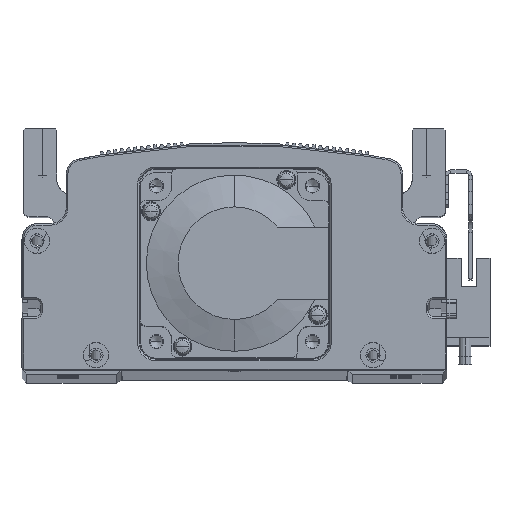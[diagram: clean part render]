
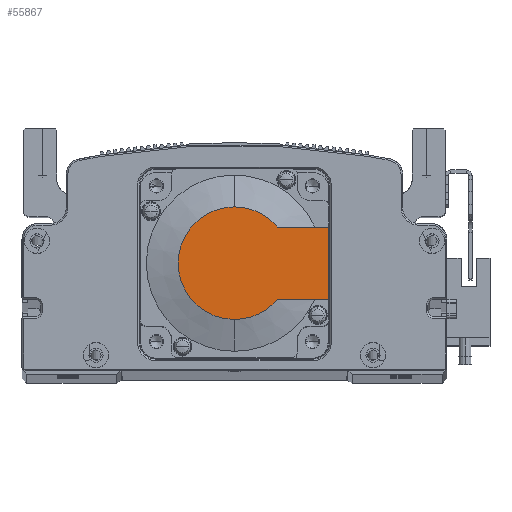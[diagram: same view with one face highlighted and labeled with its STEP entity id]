
A CAD part, top view. The second image highlights one B-rep face of the part: STEP entity #55867.
In plain terms, the highlighted planar face has unit normal (0, 0, 1) as drawn and (-1, 0, 0) by its records, which use the part's own axes.
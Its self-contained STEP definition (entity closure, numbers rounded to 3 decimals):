
#815 = FACE_OUTER_BOUND ( 'NONE', #37027, .T. ) ;
#1430 = DIRECTION ( 'NONE',  ( 0., 0., -1. ) ) ;
#2470 = VERTEX_POINT ( 'NONE', #66571 ) ;
#4621 = CIRCLE ( 'NONE', #20398, 17.881 ) ;
#5644 = EDGE_CURVE ( 'NONE', #7351, #19888, #4621, .T. ) ;
#6250 = DIRECTION ( 'NONE',  ( -1., 0., 0. ) ) ;
#6765 = CARTESIAN_POINT ( 'NONE',  ( -118.5, 13.735, -11.45 ) ) ;
#7351 = VERTEX_POINT ( 'NONE', #46268 ) ;
#7515 = VECTOR ( 'NONE', #66565, 1000. ) ;
#7745 = CARTESIAN_POINT ( 'NONE',  ( -118.5, 0., 11.45 ) ) ;
#8768 = CARTESIAN_POINT ( 'NONE',  ( -118.5, 30., -11.45 ) ) ;
#9317 = CARTESIAN_POINT ( 'NONE',  ( -118.5, -8.941, -11.45 ) ) ;
#9564 = DIRECTION ( 'NONE',  ( 0., -1., 0. ) ) ;
#12171 = CARTESIAN_POINT ( 'NONE',  ( -118.5, 0., 0. ) ) ;
#13538 = CIRCLE ( 'NONE', #63538, 17.881 ) ;
#14296 = VERTEX_POINT ( 'NONE', #46064 ) ;
#14980 = VERTEX_POINT ( 'NONE', #6765 ) ;
#16007 = CARTESIAN_POINT ( 'NONE',  ( -118.5, 0., 0. ) ) ;
#17255 = LINE ( 'NONE', #66078, #7515 ) ;
#19888 = VERTEX_POINT ( 'NONE', #60001 ) ;
#20398 = AXIS2_PLACEMENT_3D ( 'NONE', #66098, #62687, #1430 ) ;
#20633 = EDGE_CURVE ( 'NONE', #19888, #14296, #67241, .T. ) ;
#24783 = DIRECTION ( 'NONE',  ( 0., -1., 0. ) ) ;
#27879 = ORIENTED_EDGE ( 'NONE', *, *, #20633, .T. ) ;
#32197 = EDGE_CURVE ( 'NONE', #2470, #14296, #64449, .T. ) ;
#32639 = ORIENTED_EDGE ( 'NONE', *, *, #5644, .T. ) ;
#34197 = VERTEX_POINT ( 'NONE', #8768 ) ;
#34456 = VECTOR ( 'NONE', #9564, 1000. ) ;
#34646 = PLANE ( 'NONE',  #34998 ) ;
#34998 = AXIS2_PLACEMENT_3D ( 'NONE', #62501, #45824, #40353 ) ;
#37027 = EDGE_LOOP ( 'NONE', ( #43183, #49302, #32639, #27879, #73365, #41323 ) ) ;
#37594 = EDGE_CURVE ( 'NONE', #14980, #7351, #13538, .T. ) ;
#40353 = DIRECTION ( 'NONE',  ( 0., 0., 1. ) ) ;
#41090 = AXIS2_PLACEMENT_3D ( 'NONE', #16007, #72486, #54681 ) ;
#41323 = ORIENTED_EDGE ( 'NONE', *, *, #73198, .F. ) ;
#43183 = ORIENTED_EDGE ( 'NONE', *, *, #45580, .T. ) ;
#45580 = EDGE_CURVE ( 'NONE', #34197, #14980, #61970, .T. ) ;
#45824 = DIRECTION ( 'NONE',  ( -1., 0., 0. ) ) ;
#46064 = CARTESIAN_POINT ( 'NONE',  ( -118.5, 13.735, 11.45 ) ) ;
#46268 = CARTESIAN_POINT ( 'NONE',  ( -118.5, 0., -17.881 ) ) ;
#49287 = VECTOR ( 'NONE', #24783, 1000. ) ;
#49302 = ORIENTED_EDGE ( 'NONE', *, *, #37594, .T. ) ;
#51783 = DIRECTION ( 'NONE',  ( 0., 0., -1. ) ) ;
#54681 = DIRECTION ( 'NONE',  ( 0., 0., -1. ) ) ;
#55867 = ADVANCED_FACE ( 'NONE', ( #815 ), #34646, .T. ) ;
#60001 = CARTESIAN_POINT ( 'NONE',  ( -118.5, 0., 17.881 ) ) ;
#61970 = LINE ( 'NONE', #9317, #34456 ) ;
#62501 = CARTESIAN_POINT ( 'NONE',  ( -118.5, -8.941, 0. ) ) ;
#62687 = DIRECTION ( 'NONE',  ( -1., 0., 0. ) ) ;
#63538 = AXIS2_PLACEMENT_3D ( 'NONE', #12171, #6250, #51783 ) ;
#64449 = LINE ( 'NONE', #7745, #49287 ) ;
#66078 = CARTESIAN_POINT ( 'NONE',  ( -118.5, 30., 25. ) ) ;
#66098 = CARTESIAN_POINT ( 'NONE',  ( -118.5, 0., 0. ) ) ;
#66565 = DIRECTION ( 'NONE',  ( 0., 0., 1. ) ) ;
#66571 = CARTESIAN_POINT ( 'NONE',  ( -118.5, 30., 11.45 ) ) ;
#67241 = CIRCLE ( 'NONE', #41090, 17.881 ) ;
#72486 = DIRECTION ( 'NONE',  ( -1., 0., 0. ) ) ;
#73198 = EDGE_CURVE ( 'NONE', #34197, #2470, #17255, .T. ) ;
#73365 = ORIENTED_EDGE ( 'NONE', *, *, #32197, .F. ) ;
